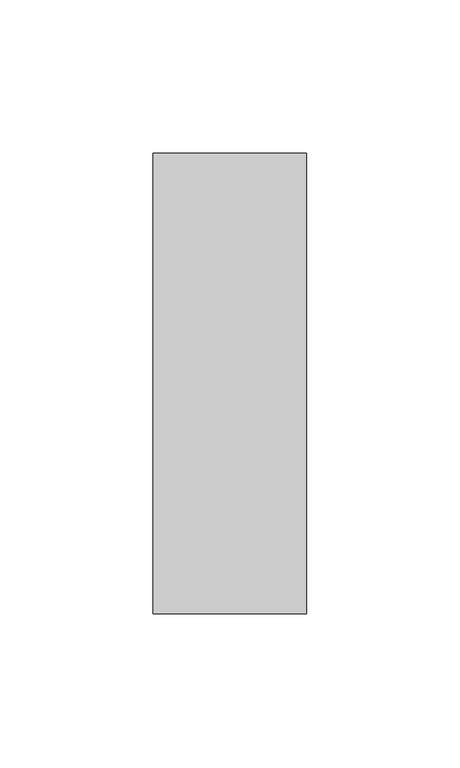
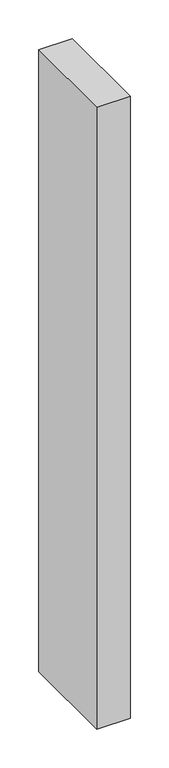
"""IFC4 building model written with IfcOpenShell, lengths in millimetres: member geometry, Прямоугольный импост : 50 x 150 мм."""

from ifc_helpers import new_model, si_unit, frame, origin, place, context, project, spatial, polyline, outline, extrude, source, transform, mapped, element, save


def member_fd617e28(model_context):
    return source(origin(), model_context, "Body", "SweptSolid", [
        extrude(outline(polyline([(25.0, 75.0), (25.0, -75.0), (-25.0, -75.0), (-25.0, 75.0), (25.0, 75.0)])), frame((0.0, 0.0, -981.964068), z_axis=(0.0, 0.0, 1.0), x_axis=(1.0, 0.0, 0.0)), (0.0, 0.0, 1.0), 981.964068),
    ])


if __name__ == "__main__":
    model = new_model("IFC4")
    model_context = context("Model", 3, world=origin())
    ifc_project = project(units=[si_unit("LENGTHUNIT", "METRE", prefix="MILLI")], contexts=[model_context])
    site = spatial("IfcSite", under=ifc_project)
    building = spatial("IfcBuilding", under=site)
    placement = place(None, origin())
    member_shape = member_fd617e28(model_context)
    element("IfcMember", 1, ObjectType="Прямоугольный импост : 50 x 150 мм", at=placement, inside=building, context=model_context, shape_type="MappedRepresentation", body=[
        mapped(member_shape, transform((0.0, 0.0, 0.0), x_axis=(1.0, 0.0, 0.0), y_axis=(0.0, 1.0, 0.0), z_axis=(0.0, 0.0, 1.0))),
    ])
    save(model, "model.ifc")
